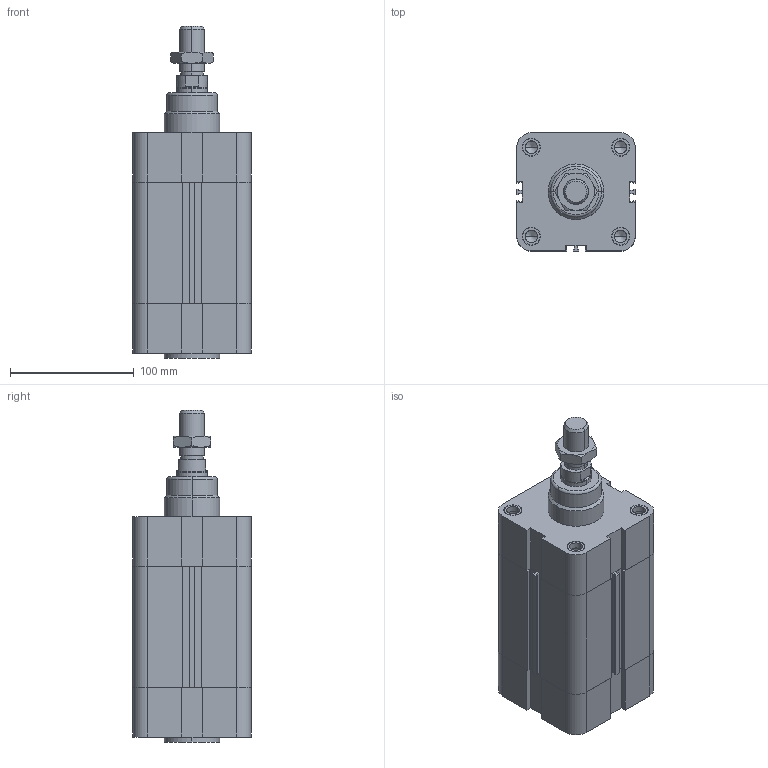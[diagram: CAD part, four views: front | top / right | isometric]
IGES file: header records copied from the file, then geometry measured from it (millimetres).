
Global section: file name: No Iges File Name specified; native system: Autodesk Inventor 2010; preprocessor: AutoDesk Inventor Iges Exporter R2010; author: rivolro1; date: 20090707.103402; units: millimetre
Bounding box: 95.5 x 95.5 x 268 mm (x, y, z)
Volume: 1393355.1 mm3; surface area: 199486 mm2
Topology: 5 solids, 5 shells, 290 faces, 694 edges, 440 vertices
Faces by surface type: plane 120, bspline 74, cylinder 40, revolution 34, cone 20, torus 2
